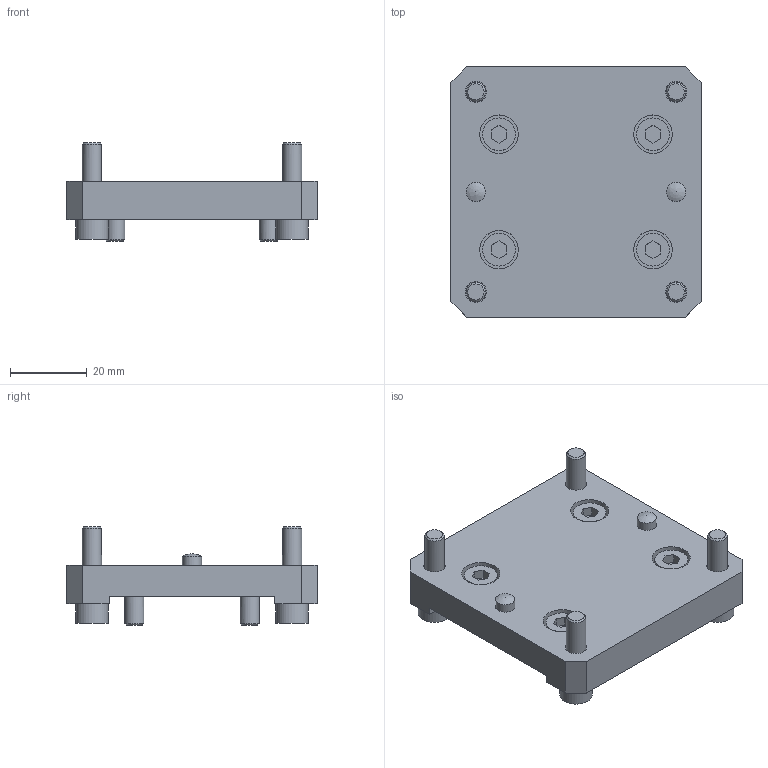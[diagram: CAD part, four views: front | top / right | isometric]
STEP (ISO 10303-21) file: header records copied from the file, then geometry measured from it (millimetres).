
FILE_DESCRIPTION( ( 'STEP AP214' ), '1' );
FILE_NAME( 'U:/Etudes/Top Solid/BIBLIO 3D AVM/STEP/N_ELECTRIQUE/Linéaires/LG2008/8319118.step', '2008-04-04T08:21:29', ( ' ' ), ( ' ' ), 'XStep 1.0', ' ', ' ' );
FILE_SCHEMA( ( 'automotive_design' ) );
Length unit declared in the file: millimetre
Products named in the file (1): 1
Bounding box: 65 x 65 x 25.5 mm (x, y, z)
Volume: 37866.9 mm3; surface area: 15867.6 mm2
Topology: 1 solids, 3 shells, 152 faces, 334 edges, 222 vertices
Faces by surface type: plane 100, cylinder 40, cone 10, bspline 2
Full cylindrical faces by diameter (mm): 5 x20, 5.5 x8, 8.5 x8, 10 x4
Entity records: 5254 total; most frequent: CARTESIAN_POINT 937, DIRECTION 630, ORIENTED_EDGE 524, EDGE_CURVE 262, EDGE_LOOP 242, AXIS2_PLACEMENT_3D 225, VERTEX_POINT 204, FACE_OUTER_BOUND 192
